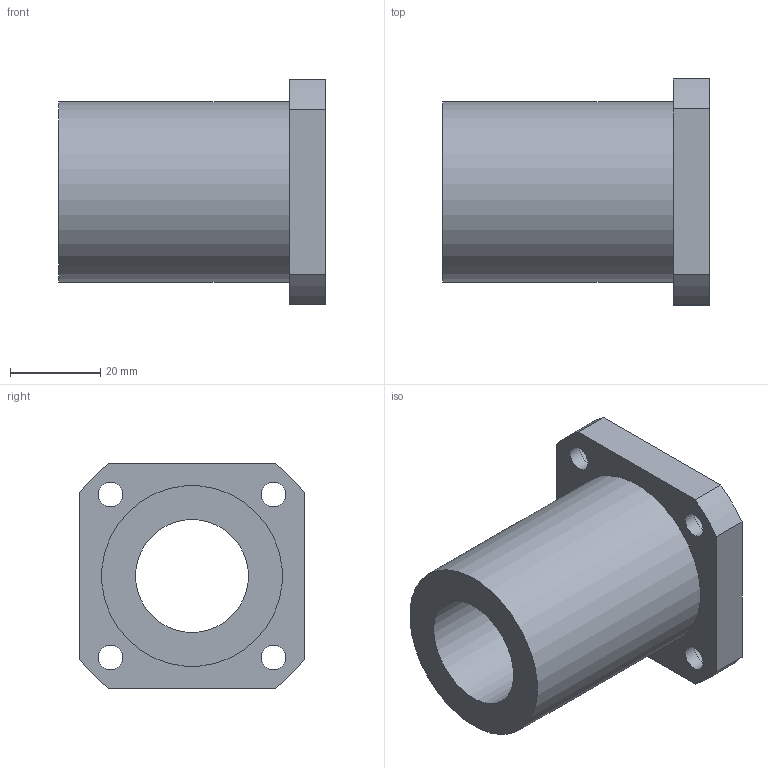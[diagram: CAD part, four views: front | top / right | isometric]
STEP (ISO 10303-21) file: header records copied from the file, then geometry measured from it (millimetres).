
FILE_DESCRIPTION(/* description */ (''),/* implementation_level */ '2;1');
FILE_NAME(/* name */ 'LMK25UU',/* time_stamp */ '2019-07-09T15:13:18+02:00',/* author */ ('VĂ©gh MĂˇtĂ©'),/* organization */ ('Bearing Kft'),/* preprocessor_version */ 'ST-DEVELOPER v16.7',/* originating_system */ 'DEX',/* authorisation */ $);
FILE_SCHEMA (('AUTOMOTIVE_DESIGN {1 0 10303 214 3 1 1}'));
Length unit declared in the file: millimetre
Products named in the file (1): LMK25UU
Bounding box: 59 x 50 x 50 mm (x, y, z)
Volume: 52909.2 mm3; surface area: 16991.2 mm2
Topology: 1 solids, 1 shells, 330 faces, 834 edges, 556 vertices
Faces by surface type: plane 255, bspline 59, cylinder 16
Full cylindrical faces by diameter (mm): 5.5 x4, 9 x4, 25 x1, 40 x1
Entity records: 12757 total; most frequent: CARTESIAN_POINT 5155, ORIENTED_EDGE 1646, DIRECTION 1281, EDGE_CURVE 823, LINE 673, VECTOR 673, VERTEX_POINT 556, EDGE_LOOP 401
